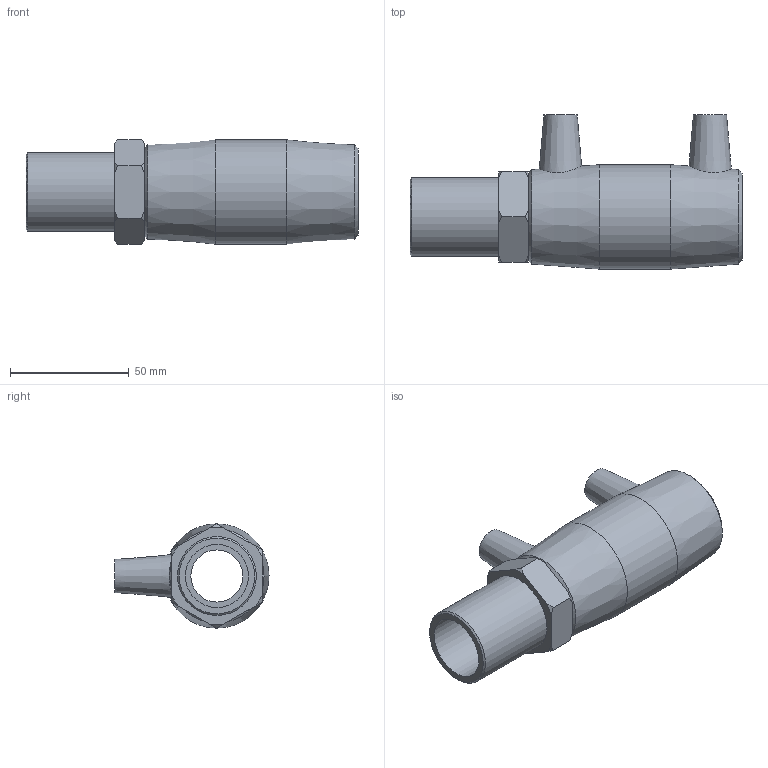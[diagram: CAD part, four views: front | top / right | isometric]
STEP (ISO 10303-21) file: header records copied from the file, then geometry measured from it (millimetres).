
FILE_DESCRIPTION(/* description */ ('PLASSON Male Transition Coupler 32 x 1"'),/* implementation_level */ '2;1');
FILE_NAME(/* name */ 'C:\Dropbox\KIMPROJECTS-Inventor\99-16-3568-Processing\ElectroFusion Fittings\02.02.20\492104\492104032010N.ipt.stp',/* time_stamp */ '2020-02-02T12:18:52+02:00',/* author */ ('KIM'),/* organization */ (''),/* preprocessor_version */ 'ST-DEVELOPER v15.6',/* originating_system */ 'Autodesk Inventor 2015',/* authorisation */ '');
FILE_SCHEMA (('AUTOMOTIVE_DESIGN { 1 0 10303 214 3 1 1 }'));
Length unit declared in the file: millimetre
Products named in the file (1): 492104032010N
Bounding box: 140 x 65 x 44 mm (x, y, z)
Volume: 102761.3 mm3; surface area: 36482.3 mm2
Topology: 1 solids, 2 shells, 54 faces, 118 edges, 77 vertices
Faces by surface type: plane 21, cone 21, cylinder 12
Full cylindrical faces by diameter (mm): 4 x2, 10 x2, 22 x1, 26.599 x1, 32 x4, 33.249 x1, 44 x1
Entity records: 1386 total; most frequent: CARTESIAN_POINT 329, DIRECTION 218, ORIENTED_EDGE 178, AXIS2_PLACEMENT_3D 100, EDGE_LOOP 90, EDGE_CURVE 89, VERTEX_POINT 71, FACE_OUTER_BOUND 54
